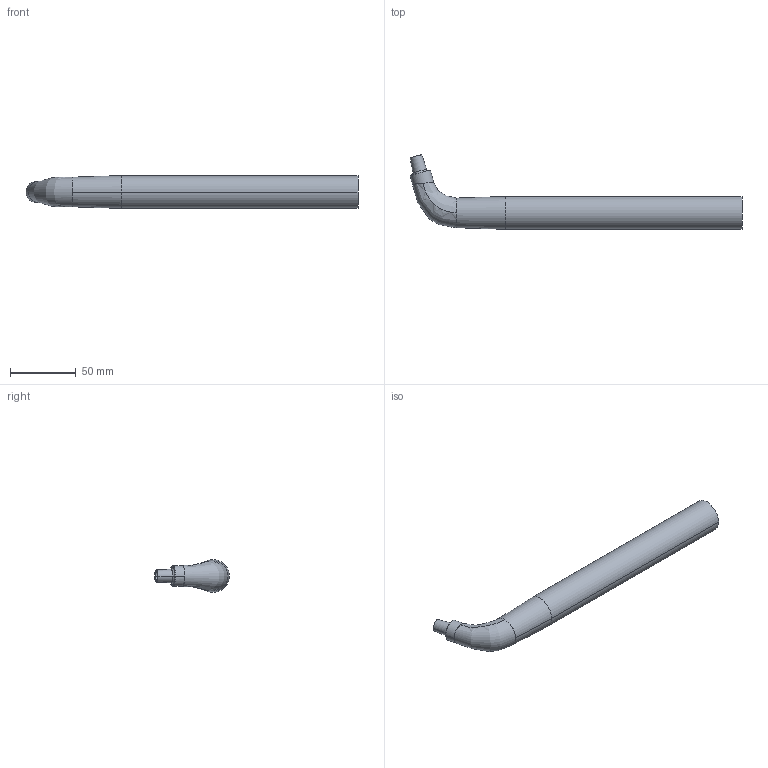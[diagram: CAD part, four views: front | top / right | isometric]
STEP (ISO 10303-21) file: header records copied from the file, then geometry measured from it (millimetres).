
FILE_DESCRIPTION( (''), '2;1');
FILE_NAME ('SY-2080-12_TB-25250-15-C1.stp','2022-04-09T22:21:10',(''),(''),'spGate 18.9.3 (****-****-****-****)','','');
FILE_SCHEMA (('AUTOMOTIVE_DESIGN'));
Length unit declared in the file: millimetre
Products named in the file (15): Assembly; SY-2080-12_TB-25250-15-C1-prt0; SY-2080-12_TB-25250-15-C1-prt1; SY-2080-12_TB-25250-15-C1-prt2; SY-2080-12_TB-25250-15-C1-prt3; SY-2080-12_TB-25250-15-C1-prt4; SY-2080-12_TB-25250-15-C1-prt5; SY-2080-12_TB-25250-15-C1-prt6; SY-2080-12_TB-25250-15-C1-prt7; SY-2080-12_TB-25250-15-C1-prt8; SY-2080-12_TB-25250-15-C1-prt9; SY-2080-12_TB-25250-15-C1-prt10; SY-2080-12_TB-25250-15-C1-prt11; SY-2080-12_TB-25250-15-C1-prt12; SY-2080-12_TB-25250-15-C1-prt13
Assembly tree (14 placements, depth 2):
  Assembly
    SY-2080-12_TB-25250-15-C1-prt0
    SY-2080-12_TB-25250-15-C1-prt1
    SY-2080-12_TB-25250-15-C1-prt2
    SY-2080-12_TB-25250-15-C1-prt3
    SY-2080-12_TB-25250-15-C1-prt4
    SY-2080-12_TB-25250-15-C1-prt5
    SY-2080-12_TB-25250-15-C1-prt6
    SY-2080-12_TB-25250-15-C1-prt7
    SY-2080-12_TB-25250-15-C1-prt8
    SY-2080-12_TB-25250-15-C1-prt9
    SY-2080-12_TB-25250-15-C1-prt10
    SY-2080-12_TB-25250-15-C1-prt11
    SY-2080-12_TB-25250-15-C1-prt12
    SY-2080-12_TB-25250-15-C1-prt13
Bounding box: 253.02 x 56.88 x 25 mm (x, y, z)
Volume: 100824.1 mm3; surface area: 28651.4 mm2
Topology: 1 solids, 1 shells, 36 faces, 90 edges, 72 vertices
Faces by surface type: bspline 18, cylinder 10, plane 8
Entity records: 3352 total; most frequent: CARTESIAN_POINT 1583, DIRECTION 190, ORIENTED_EDGE 154, COLOUR_RGB 127, PRESENTATION_STYLE_ASSIGNMENT 127, STYLED_ITEM 127, DRAUGHTING_PRE_DEFINED_CURVE_FONT 90, CURVE_STYLE 90
